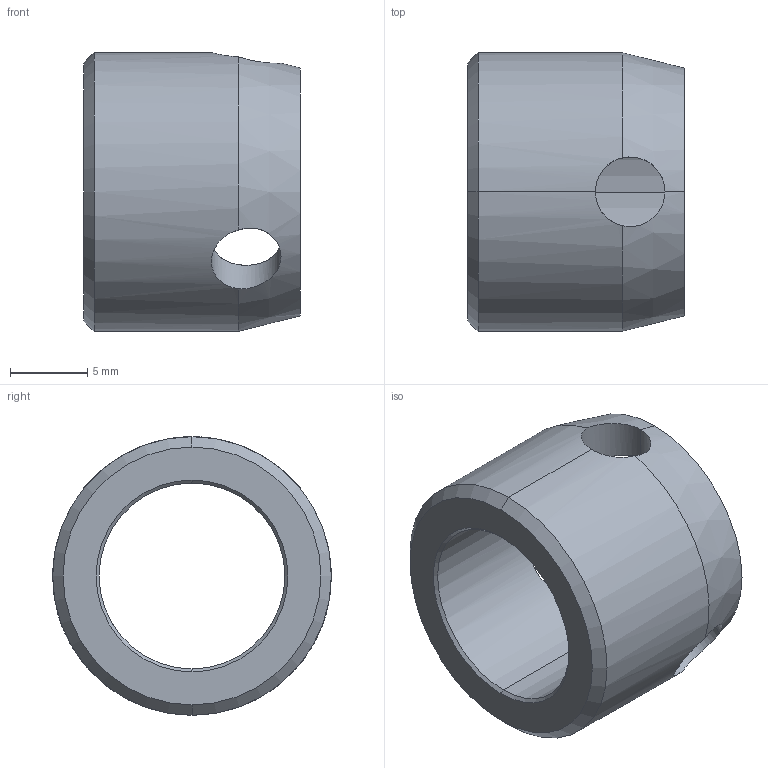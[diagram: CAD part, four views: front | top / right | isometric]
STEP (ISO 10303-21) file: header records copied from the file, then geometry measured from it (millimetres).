
FILE_DESCRIPTION (( 'STEP AP203' ), '1' );
FILE_NAME ('FSUK-SCRS-M14-14.STEP', '2021-08-05T13:05:16', ( '' ), ( '' ), 'SwSTEP 2.0', 'SolidWorks 2021', '' );
FILE_SCHEMA (( 'CONFIG_CONTROL_DESIGN' ));
Length unit declared in the file: millimetre
Products named in the file (1): FSUK-SCRS-M14-14
Bounding box: 14 x 18 x 18 mm (x, y, z)
Volume: 1720.5 mm3; surface area: 1533.3 mm2
Topology: 1 solids, 1 shells, 20 faces, 55 edges, 33 vertices
Faces by surface type: cylinder 10, cone 8, plane 2
Entity records: 1028 total; most frequent: CARTESIAN_POINT 451, ORIENTED_EDGE 110, DIRECTION 97, EDGE_CURVE 55, AXIS2_PLACEMENT_3D 39, VERTEX_POINT 33, EDGE_LOOP 24, ADVANCED_FACE 20
